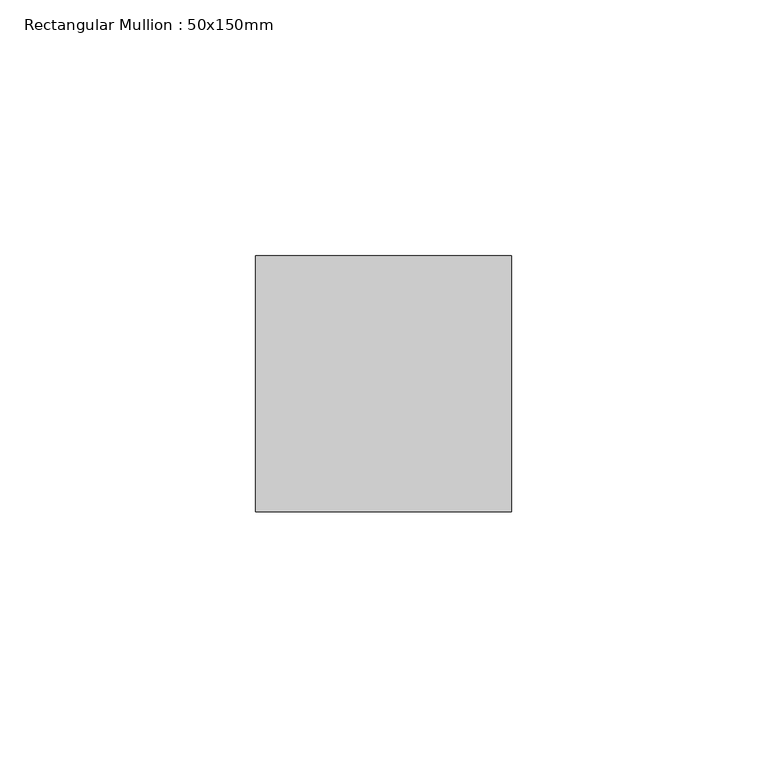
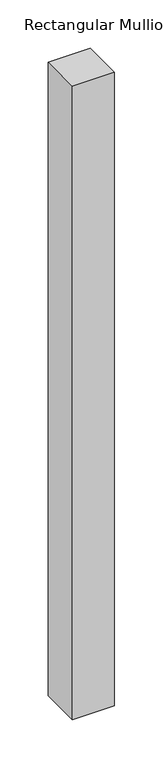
"""IFC4 building model written with IfcOpenShell, lengths in millimetres: member geometry, Rectangular Mullion : 50x150mm."""

from ifc_helpers import new_model, si_unit, frame, origin, place, context, project, spatial, polyline, outline, extrude, source, transform, mapped, element, save


def rectangular_mullion_50x150mm_cb55ee1b(model_context):
    return source(origin(), model_context, "Body", "SweptSolid", [
        extrude(outline(polyline([(0.0, 25.0), (0.0, -25.0), (-50.0, -25.0), (-50.0, 25.0), (0.0, 25.0)])), frame((0.0, 0.0, -800.0), z_axis=(0.0, 0.0, 1.0), x_axis=(1.0, 0.0, 0.0)), (0.0, 0.0, 1.0), 800.0),
    ])


if __name__ == "__main__":
    model = new_model("IFC4")
    model_context = context("Model", 3, world=origin())
    ifc_project = project(units=[si_unit("LENGTHUNIT", "METRE", prefix="MILLI")], contexts=[model_context])
    site = spatial("IfcSite", under=ifc_project)
    building = spatial("IfcBuilding", under=site)
    placement = place(None, origin())
    rectangular_mullion_50x150mm_shape = rectangular_mullion_50x150mm_cb55ee1b(model_context)
    element("IfcMember", 1, ObjectType="Rectangular Mullion : 50x150mm", at=placement, inside=building, context=model_context, shape_type="MappedRepresentation", body=[
        mapped(rectangular_mullion_50x150mm_shape, transform((0.0, 0.0, 0.0), x_axis=(1.0, 0.0, 0.0), y_axis=(0.0, 1.0, 0.0), z_axis=(0.0, 0.0, 1.0))),
    ])
    save(model, "model.ifc")
